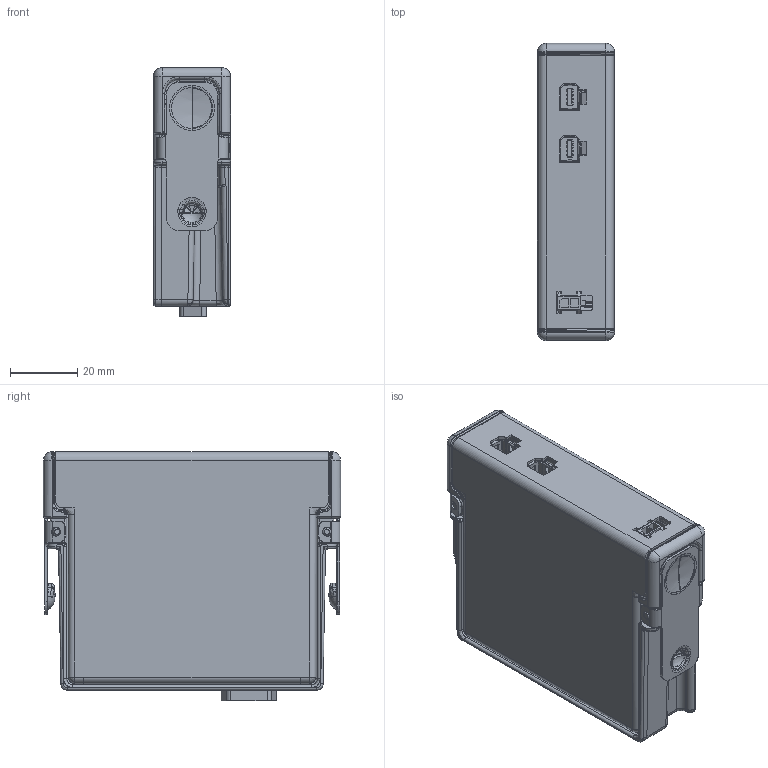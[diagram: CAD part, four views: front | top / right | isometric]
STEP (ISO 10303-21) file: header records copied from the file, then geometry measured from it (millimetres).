
FILE_DESCRIPTION((''),'2;1');
FILE_NAME('CU_NI-9860_1','2015-08-06T',('dkendric'),(''),'PRO/ENGINEER BY PARAMETRIC TECHNOLOGY CORPORATION, 2014000','PRO/ENGINEER BY PARAMETRIC TECHNOLOGY CORPORATION, 2014000','');
FILE_SCHEMA(('CONFIG_CONTROL_DESIGN'));
Products named in the file (1): CU_NI-9860_1
Bounding box: 22.86 x 88.11 x 74.1 mm (x, y, z)
Volume: 11159.5 mm3; surface area: 54943.8 mm2
Topology: 12 solids, 36 shells, 2796 faces, 7804 edges, 4884 vertices
Faces by surface type: plane 1376, cylinder 866, bspline 321, torus 104, sphere 55, extrusion 46, cone 28
Entity records: 109933 total; most frequent: CARTESIAN_POINT 41363, ORIENTED_EDGE 15046, DIRECTION 12875, EDGE_CURVE 7736, VERTEX_POINT 4922, VECTOR 4771, LINE 4725, AXIS2_PLACEMENT_3D 4052
